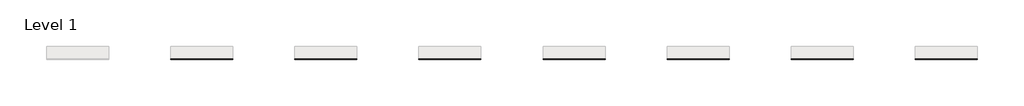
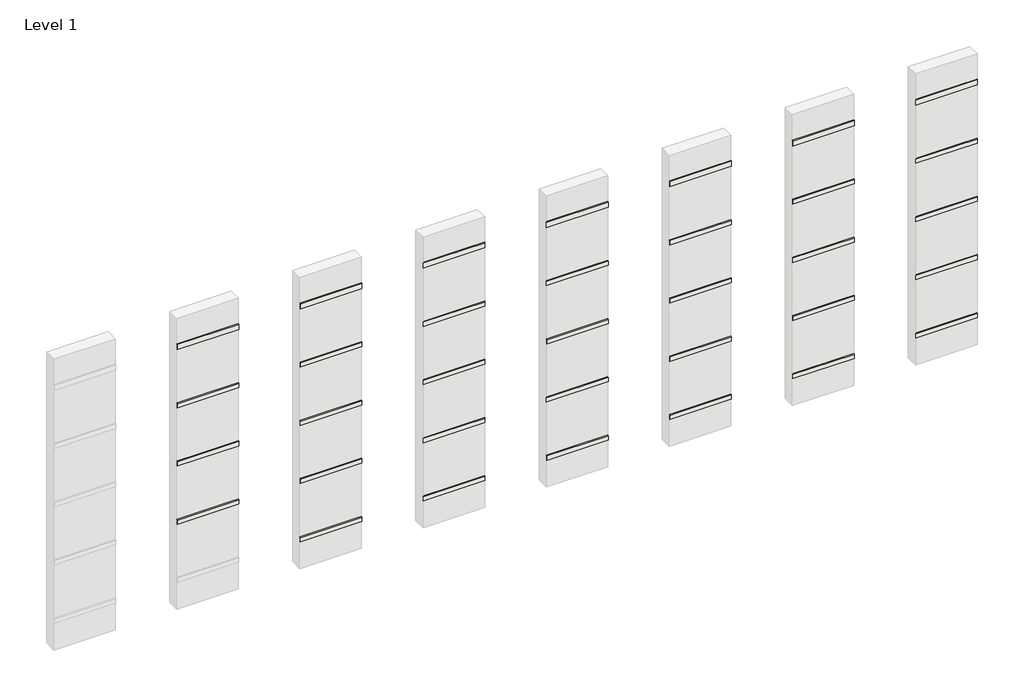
# One storey, part 2 of 2: 34 coverings.
"""IFC4 building model written with IfcOpenShell, lengths in millimetres."""

from ifc_helpers import new_model, si_unit, point, frame, frame_2d, origin, place, context, project, spatial, polyline, circle_curve, trimmed, segment, composite_curve, outline, extrude, element, save

model = new_model("IFC4")

# Units and contexts
model_context = context("Model", 3, world=origin())
ifc_project = project(units=[si_unit("LENGTHUNIT", "METRE", prefix="MILLI")], contexts=[model_context])

# Site, building, storey
site = spatial("IfcSite", under=ifc_project)
building = spatial("IfcBuilding", under=site)
storey = spatial("IfcBuildingStorey", under=building, Name="Level 1", Elevation=0.0)

# Coverings
placement = place(None, origin())
element("IfcCovering", 1, ObjectType="REVIGRÉS-OMNISTONE-RB-8X60-SOFT-IRON", at=placement, inside=storey, context=model_context, shape_type="SweptSolid", body=[
    extrude(outline(composite_curve([segment(polyline([(-6973.1153225, -16529.6057204), (-6982.9153225, -16529.6057204), (-6982.9153225, -16459.4057204)]), True, "CONTINUOUS"), segment(trimmed(circle_curve(frame_2d((-6973.1153225, -16459.4057204)), 9.8), [point((-6982.9153225, -16459.4057204))], [point((-6973.1153225, -16449.6057204))], False, "CARTESIAN"), True, "CONTINUOUS"), segment(polyline([(-6973.1153225, -16449.6057204), (-6973.1153225, -16529.6057204)]), True, "CONTINUOUS")], self_intersect=False)), frame((15592.0023157, 0.0, 0.0), z_axis=(1.0, 0.0, 0.0), x_axis=(0.0, 1.0, 0.0)), (0.0, 0.0, 1.0), 1000.0),
])
element("IfcCovering", 2, ObjectType="REVIGRÉS-OMNISTONE-RB-8X90-SOFT-IRON", at=placement, inside=storey, context=model_context, shape_type="SweptSolid", body=[
    extrude(outline(composite_curve([segment(polyline([(-6973.1153225, -15529.6057204), (-6983.6153225, -15529.6057204), (-6983.6153225, -15460.1057204)]), True, "CONTINUOUS"), segment(trimmed(circle_curve(frame_2d((-6973.1153225, -15460.1057204)), 10.5), [point((-6983.6153225, -15460.1057204))], [point((-6973.1153225, -15449.6057204))], False, "CARTESIAN"), True, "CONTINUOUS"), segment(polyline([(-6973.1153225, -15449.6057204), (-6973.1153225, -15529.6057204)]), True, "CONTINUOUS")], self_intersect=False)), frame((15592.0023157, 0.0, 0.0), z_axis=(1.0, 0.0, 0.0), x_axis=(0.0, 1.0, 0.0)), (0.0, 0.0, 1.0), 1000.0),
])
element("IfcCovering", 3, ObjectType="REVIGRÉS-OMNISTONE-RB-8X120-SOFT-IRON", at=placement, inside=storey, context=model_context, shape_type="SweptSolid", body=[
    extrude(outline(composite_curve([segment(polyline([(-6973.1153225, -14529.6057204), (-6982.9153225, -14529.6057204), (-6982.9153225, -14459.4057204)]), True, "CONTINUOUS"), segment(trimmed(circle_curve(frame_2d((-6973.1153225, -14459.4057204)), 9.8), [point((-6982.9153225, -14459.4057204))], [point((-6973.1153225, -14449.6057204))], False, "CARTESIAN"), True, "CONTINUOUS"), segment(polyline([(-6973.1153225, -14449.6057204), (-6973.1153225, -14529.6057204)]), True, "CONTINUOUS")], self_intersect=False)), frame((15592.0023157, 0.0, 0.0), z_axis=(1.0, 0.0, 0.0), x_axis=(0.0, 1.0, 0.0)), (0.0, 0.0, 1.0), 1000.0),
])
element("IfcCovering", 4, ObjectType="REVIGRÉS-OMNISTONE-RB-9.5X30-SOFT-IRON", at=placement, inside=storey, context=model_context, shape_type="SweptSolid", body=[
    extrude(outline(composite_curve([segment(polyline([(-6973.1153225, -13529.6057204), (-6982.9153225, -13529.6057204), (-6982.9153225, -13444.4057204)]), True, "CONTINUOUS"), segment(trimmed(circle_curve(frame_2d((-6973.1153225, -13444.4057204)), 9.8), [point((-6982.9153225, -13444.4057204))], [point((-6973.1153225, -13434.6057204))], False, "CARTESIAN"), True, "CONTINUOUS"), segment(polyline([(-6973.1153225, -13434.6057204), (-6973.1153225, -13529.6057204)]), True, "CONTINUOUS")], self_intersect=False)), frame((15592.0023157, 0.0, 0.0), z_axis=(1.0, 0.0, 0.0), x_axis=(0.0, 1.0, 0.0)), (0.0, 0.0, 1.0), 1000.0),
])
element("IfcCovering", 5, ObjectType="REVIGRÉS-OMNISTONE-RB-8X45-MATTRECT-JET", at=placement, inside=storey, context=model_context, shape_type="SweptSolid", body=[
    extrude(outline(composite_curve([segment(polyline([(-6973.1153225, -17529.6057204), (-6983.6153225, -17529.6057204), (-6983.6153225, -17460.1057204)]), True, "CONTINUOUS"), segment(trimmed(circle_curve(frame_2d((-6973.1153225, -17460.1057204)), 10.5), [point((-6983.6153225, -17460.1057204))], [point((-6973.1153225, -17449.6057204))], False, "CARTESIAN"), True, "CONTINUOUS"), segment(polyline([(-6973.1153225, -17449.6057204), (-6973.1153225, -17529.6057204)]), True, "CONTINUOUS")], self_intersect=False)), frame((17592.0023157, 0.0, 0.0), z_axis=(1.0, 0.0, 0.0), x_axis=(0.0, 1.0, 0.0)), (0.0, 0.0, 1.0), 1000.0),
])
element("IfcCovering", 6, ObjectType="REVIGRÉS-OMNISTONE-RB-8X60-MATTRECT-JET", at=placement, inside=storey, context=model_context, shape_type="SweptSolid", body=[
    extrude(outline(composite_curve([segment(polyline([(-6973.1153225, -16529.6057204), (-6982.9153225, -16529.6057204), (-6982.9153225, -16459.4057204)]), True, "CONTINUOUS"), segment(trimmed(circle_curve(frame_2d((-6973.1153225, -16459.4057204)), 9.8), [point((-6982.9153225, -16459.4057204))], [point((-6973.1153225, -16449.6057204))], False, "CARTESIAN"), True, "CONTINUOUS"), segment(polyline([(-6973.1153225, -16449.6057204), (-6973.1153225, -16529.6057204)]), True, "CONTINUOUS")], self_intersect=False)), frame((17592.0023157, 0.0, 0.0), z_axis=(1.0, 0.0, 0.0), x_axis=(0.0, 1.0, 0.0)), (0.0, 0.0, 1.0), 1000.0),
])
element("IfcCovering", 7, ObjectType="REVIGRÉS-OMNISTONE-RB-8X90-MATTRECT-JET", at=placement, inside=storey, context=model_context, shape_type="SweptSolid", body=[
    extrude(outline(composite_curve([segment(polyline([(-6973.1153225, -15529.6057204), (-6983.6153225, -15529.6057204), (-6983.6153225, -15460.1057204)]), True, "CONTINUOUS"), segment(trimmed(circle_curve(frame_2d((-6973.1153225, -15460.1057204)), 10.5), [point((-6983.6153225, -15460.1057204))], [point((-6973.1153225, -15449.6057204))], False, "CARTESIAN"), True, "CONTINUOUS"), segment(polyline([(-6973.1153225, -15449.6057204), (-6973.1153225, -15529.6057204)]), True, "CONTINUOUS")], self_intersect=False)), frame((17592.0023157, 0.0, 0.0), z_axis=(1.0, 0.0, 0.0), x_axis=(0.0, 1.0, 0.0)), (0.0, 0.0, 1.0), 1000.0),
])
element("IfcCovering", 8, ObjectType="REVIGRÉS-OMNISTONE-RB-8X120-MATTRECT-JET", at=placement, inside=storey, context=model_context, shape_type="SweptSolid", body=[
    extrude(outline(composite_curve([segment(polyline([(-6973.1153225, -14529.6057204), (-6982.9153225, -14529.6057204), (-6982.9153225, -14459.4057204)]), True, "CONTINUOUS"), segment(trimmed(circle_curve(frame_2d((-6973.1153225, -14459.4057204)), 9.8), [point((-6982.9153225, -14459.4057204))], [point((-6973.1153225, -14449.6057204))], False, "CARTESIAN"), True, "CONTINUOUS"), segment(polyline([(-6973.1153225, -14449.6057204), (-6973.1153225, -14529.6057204)]), True, "CONTINUOUS")], self_intersect=False)), frame((17592.0023157, 0.0, 0.0), z_axis=(1.0, 0.0, 0.0), x_axis=(0.0, 1.0, 0.0)), (0.0, 0.0, 1.0), 1000.0),
])
element("IfcCovering", 9, ObjectType="REVIGRÉS-OMNISTONE-RB-9.5X30-MATTRECT-JET", at=placement, inside=storey, context=model_context, shape_type="SweptSolid", body=[
    extrude(outline(composite_curve([segment(polyline([(-6973.1153225, -13529.6057204), (-6982.9153225, -13529.6057204), (-6982.9153225, -13444.4057204)]), True, "CONTINUOUS"), segment(trimmed(circle_curve(frame_2d((-6973.1153225, -13444.4057204)), 9.8), [point((-6982.9153225, -13444.4057204))], [point((-6973.1153225, -13434.6057204))], False, "CARTESIAN"), True, "CONTINUOUS"), segment(polyline([(-6973.1153225, -13434.6057204), (-6973.1153225, -13529.6057204)]), True, "CONTINUOUS")], self_intersect=False)), frame((17592.0023157, 0.0, 0.0), z_axis=(1.0, 0.0, 0.0), x_axis=(0.0, 1.0, 0.0)), (0.0, 0.0, 1.0), 1000.0),
])
element("IfcCovering", 10, ObjectType="REVIGRÉS-OMNISTONE-RB-8X45-SOFT-JET", at=placement, inside=storey, context=model_context, shape_type="SweptSolid", body=[
    extrude(outline(composite_curve([segment(polyline([(-6973.1153225, -17529.6057204), (-6983.6153225, -17529.6057204), (-6983.6153225, -17460.1057204)]), True, "CONTINUOUS"), segment(trimmed(circle_curve(frame_2d((-6973.1153225, -17460.1057204)), 10.5), [point((-6983.6153225, -17460.1057204))], [point((-6973.1153225, -17449.6057204))], False, "CARTESIAN"), True, "CONTINUOUS"), segment(polyline([(-6973.1153225, -17449.6057204), (-6973.1153225, -17529.6057204)]), True, "CONTINUOUS")], self_intersect=False)), frame((19592.0023157, 0.0, 0.0), z_axis=(1.0, 0.0, 0.0), x_axis=(0.0, 1.0, 0.0)), (0.0, 0.0, 1.0), 1000.0),
])
element("IfcCovering", 11, ObjectType="REVIGRÉS-OMNISTONE-RB-8X60-SOFT-JET", at=placement, inside=storey, context=model_context, shape_type="SweptSolid", body=[
    extrude(outline(composite_curve([segment(polyline([(-6973.1153225, -16529.6057204), (-6982.9153225, -16529.6057204), (-6982.9153225, -16459.4057204)]), True, "CONTINUOUS"), segment(trimmed(circle_curve(frame_2d((-6973.1153225, -16459.4057204)), 9.8), [point((-6982.9153225, -16459.4057204))], [point((-6973.1153225, -16449.6057204))], False, "CARTESIAN"), True, "CONTINUOUS"), segment(polyline([(-6973.1153225, -16449.6057204), (-6973.1153225, -16529.6057204)]), True, "CONTINUOUS")], self_intersect=False)), frame((19592.0023157, 0.0, 0.0), z_axis=(1.0, 0.0, 0.0), x_axis=(0.0, 1.0, 0.0)), (0.0, 0.0, 1.0), 1000.0),
])
element("IfcCovering", 12, ObjectType="REVIGRÉS-OMNISTONE-RB-8X90-SOFT-JET", at=placement, inside=storey, context=model_context, shape_type="SweptSolid", body=[
    extrude(outline(composite_curve([segment(polyline([(-6973.1153225, -15529.6057204), (-6983.6153225, -15529.6057204), (-6983.6153225, -15460.1057204)]), True, "CONTINUOUS"), segment(trimmed(circle_curve(frame_2d((-6973.1153225, -15460.1057204)), 10.5), [point((-6983.6153225, -15460.1057204))], [point((-6973.1153225, -15449.6057204))], False, "CARTESIAN"), True, "CONTINUOUS"), segment(polyline([(-6973.1153225, -15449.6057204), (-6973.1153225, -15529.6057204)]), True, "CONTINUOUS")], self_intersect=False)), frame((19592.0023157, 0.0, 0.0), z_axis=(1.0, 0.0, 0.0), x_axis=(0.0, 1.0, 0.0)), (0.0, 0.0, 1.0), 1000.0),
])
element("IfcCovering", 13, ObjectType="REVIGRÉS-OMNISTONE-RB-8X120-SOFT-JET", at=placement, inside=storey, context=model_context, shape_type="SweptSolid", body=[
    extrude(outline(composite_curve([segment(polyline([(-6973.1153225, -14529.6057204), (-6982.9153225, -14529.6057204), (-6982.9153225, -14459.4057204)]), True, "CONTINUOUS"), segment(trimmed(circle_curve(frame_2d((-6973.1153225, -14459.4057204)), 9.8), [point((-6982.9153225, -14459.4057204))], [point((-6973.1153225, -14449.6057204))], False, "CARTESIAN"), True, "CONTINUOUS"), segment(polyline([(-6973.1153225, -14449.6057204), (-6973.1153225, -14529.6057204)]), True, "CONTINUOUS")], self_intersect=False)), frame((19592.0023157, 0.0, 0.0), z_axis=(1.0, 0.0, 0.0), x_axis=(0.0, 1.0, 0.0)), (0.0, 0.0, 1.0), 1000.0),
])
element("IfcCovering", 14, ObjectType="REVIGRÉS-OMNISTONE-RB-9.5X30-SOFT-JET", at=placement, inside=storey, context=model_context, shape_type="SweptSolid", body=[
    extrude(outline(composite_curve([segment(polyline([(-6973.1153225, -13529.6057204), (-6982.9153225, -13529.6057204), (-6982.9153225, -13444.4057204)]), True, "CONTINUOUS"), segment(trimmed(circle_curve(frame_2d((-6973.1153225, -13444.4057204)), 9.8), [point((-6982.9153225, -13444.4057204))], [point((-6973.1153225, -13434.6057204))], False, "CARTESIAN"), True, "CONTINUOUS"), segment(polyline([(-6973.1153225, -13434.6057204), (-6973.1153225, -13529.6057204)]), True, "CONTINUOUS")], self_intersect=False)), frame((19592.0023157, 0.0, 0.0), z_axis=(1.0, 0.0, 0.0), x_axis=(0.0, 1.0, 0.0)), (0.0, 0.0, 1.0), 1000.0),
])
element("IfcCovering", 15, ObjectType="REVIGRÉS-OMNISTONE-RB-8X45-MATTRECT-PLATINA", at=placement, inside=storey, context=model_context, shape_type="SweptSolid", body=[
    extrude(outline(composite_curve([segment(polyline([(-6973.1153225, -17529.6057204), (-6983.6153225, -17529.6057204), (-6983.6153225, -17460.1057204)]), True, "CONTINUOUS"), segment(trimmed(circle_curve(frame_2d((-6973.1153225, -17460.1057204)), 10.5), [point((-6983.6153225, -17460.1057204))], [point((-6973.1153225, -17449.6057204))], False, "CARTESIAN"), True, "CONTINUOUS"), segment(polyline([(-6973.1153225, -17449.6057204), (-6973.1153225, -17529.6057204)]), True, "CONTINUOUS")], self_intersect=False)), frame((21592.0023157, 0.0, 0.0), z_axis=(1.0, 0.0, 0.0), x_axis=(0.0, 1.0, 0.0)), (0.0, 0.0, 1.0), 1000.0),
])
element("IfcCovering", 16, ObjectType="REVIGRÉS-OMNISTONE-RB-8X60-MATTRECT-PLATINA", at=placement, inside=storey, context=model_context, shape_type="SweptSolid", body=[
    extrude(outline(composite_curve([segment(polyline([(-6973.1153225, -16529.6057204), (-6982.9153225, -16529.6057204), (-6982.9153225, -16459.4057204)]), True, "CONTINUOUS"), segment(trimmed(circle_curve(frame_2d((-6973.1153225, -16459.4057204)), 9.8), [point((-6982.9153225, -16459.4057204))], [point((-6973.1153225, -16449.6057204))], False, "CARTESIAN"), True, "CONTINUOUS"), segment(polyline([(-6973.1153225, -16449.6057204), (-6973.1153225, -16529.6057204)]), True, "CONTINUOUS")], self_intersect=False)), frame((21592.0023157, 0.0, 0.0), z_axis=(1.0, 0.0, 0.0), x_axis=(0.0, 1.0, 0.0)), (0.0, 0.0, 1.0), 1000.0),
])
element("IfcCovering", 17, ObjectType="REVIGRÉS-OMNISTONE-RB-8X90-MATTRECT-PLATINA", at=placement, inside=storey, context=model_context, shape_type="SweptSolid", body=[
    extrude(outline(composite_curve([segment(polyline([(-6973.1153225, -15529.6057204), (-6983.6153225, -15529.6057204), (-6983.6153225, -15460.1057204)]), True, "CONTINUOUS"), segment(trimmed(circle_curve(frame_2d((-6973.1153225, -15460.1057204)), 10.5), [point((-6983.6153225, -15460.1057204))], [point((-6973.1153225, -15449.6057204))], False, "CARTESIAN"), True, "CONTINUOUS"), segment(polyline([(-6973.1153225, -15449.6057204), (-6973.1153225, -15529.6057204)]), True, "CONTINUOUS")], self_intersect=False)), frame((21592.0023157, 0.0, 0.0), z_axis=(1.0, 0.0, 0.0), x_axis=(0.0, 1.0, 0.0)), (0.0, 0.0, 1.0), 1000.0),
])
element("IfcCovering", 18, ObjectType="REVIGRÉS-OMNISTONE-RB-8X120-MATTRECT-PLATINA", at=placement, inside=storey, context=model_context, shape_type="SweptSolid", body=[
    extrude(outline(composite_curve([segment(polyline([(-6973.1153225, -14529.6057204), (-6982.9153225, -14529.6057204), (-6982.9153225, -14459.4057204)]), True, "CONTINUOUS"), segment(trimmed(circle_curve(frame_2d((-6973.1153225, -14459.4057204)), 9.8), [point((-6982.9153225, -14459.4057204))], [point((-6973.1153225, -14449.6057204))], False, "CARTESIAN"), True, "CONTINUOUS"), segment(polyline([(-6973.1153225, -14449.6057204), (-6973.1153225, -14529.6057204)]), True, "CONTINUOUS")], self_intersect=False)), frame((21592.0023157, 0.0, 0.0), z_axis=(1.0, 0.0, 0.0), x_axis=(0.0, 1.0, 0.0)), (0.0, 0.0, 1.0), 1000.0),
])
element("IfcCovering", 19, ObjectType="REVIGRÉS-OMNISTONE-RB-9.5X30-MATTRECT-PLATINA", at=placement, inside=storey, context=model_context, shape_type="SweptSolid", body=[
    extrude(outline(composite_curve([segment(polyline([(-6973.1153225, -13529.6057204), (-6982.9153225, -13529.6057204), (-6982.9153225, -13444.4057204)]), True, "CONTINUOUS"), segment(trimmed(circle_curve(frame_2d((-6973.1153225, -13444.4057204)), 9.8), [point((-6982.9153225, -13444.4057204))], [point((-6973.1153225, -13434.6057204))], False, "CARTESIAN"), True, "CONTINUOUS"), segment(polyline([(-6973.1153225, -13434.6057204), (-6973.1153225, -13529.6057204)]), True, "CONTINUOUS")], self_intersect=False)), frame((21592.0023157, 0.0, 0.0), z_axis=(1.0, 0.0, 0.0), x_axis=(0.0, 1.0, 0.0)), (0.0, 0.0, 1.0), 1000.0),
])
element("IfcCovering", 20, ObjectType="REVIGRÉS-OMNISTONE-RB-8X45-SOFT-PLATINA", at=placement, inside=storey, context=model_context, shape_type="SweptSolid", body=[
    extrude(outline(composite_curve([segment(polyline([(-6973.1153225, -17529.6057204), (-6983.6153225, -17529.6057204), (-6983.6153225, -17460.1057204)]), True, "CONTINUOUS"), segment(trimmed(circle_curve(frame_2d((-6973.1153225, -17460.1057204)), 10.5), [point((-6983.6153225, -17460.1057204))], [point((-6973.1153225, -17449.6057204))], False, "CARTESIAN"), True, "CONTINUOUS"), segment(polyline([(-6973.1153225, -17449.6057204), (-6973.1153225, -17529.6057204)]), True, "CONTINUOUS")], self_intersect=False)), frame((23592.0023157, 0.0, 0.0), z_axis=(1.0, 0.0, 0.0), x_axis=(0.0, 1.0, 0.0)), (0.0, 0.0, 1.0), 1000.0),
])
element("IfcCovering", 21, ObjectType="REVIGRÉS-OMNISTONE-RB-8X60-SOFT-PLATINA", at=placement, inside=storey, context=model_context, shape_type="SweptSolid", body=[
    extrude(outline(composite_curve([segment(polyline([(-6973.1153225, -16529.6057204), (-6982.9153225, -16529.6057204), (-6982.9153225, -16459.4057204)]), True, "CONTINUOUS"), segment(trimmed(circle_curve(frame_2d((-6973.1153225, -16459.4057204)), 9.8), [point((-6982.9153225, -16459.4057204))], [point((-6973.1153225, -16449.6057204))], False, "CARTESIAN"), True, "CONTINUOUS"), segment(polyline([(-6973.1153225, -16449.6057204), (-6973.1153225, -16529.6057204)]), True, "CONTINUOUS")], self_intersect=False)), frame((23592.0023157, 0.0, 0.0), z_axis=(1.0, 0.0, 0.0), x_axis=(0.0, 1.0, 0.0)), (0.0, 0.0, 1.0), 1000.0),
])
element("IfcCovering", 22, ObjectType="REVIGRÉS-OMNISTONE-RB-8X90-SOFT-PLATINA", at=placement, inside=storey, context=model_context, shape_type="SweptSolid", body=[
    extrude(outline(composite_curve([segment(polyline([(-6973.1153225, -15529.6057204), (-6983.6153225, -15529.6057204), (-6983.6153225, -15460.1057204)]), True, "CONTINUOUS"), segment(trimmed(circle_curve(frame_2d((-6973.1153225, -15460.1057204)), 10.5), [point((-6983.6153225, -15460.1057204))], [point((-6973.1153225, -15449.6057204))], False, "CARTESIAN"), True, "CONTINUOUS"), segment(polyline([(-6973.1153225, -15449.6057204), (-6973.1153225, -15529.6057204)]), True, "CONTINUOUS")], self_intersect=False)), frame((23592.0023157, 0.0, 0.0), z_axis=(1.0, 0.0, 0.0), x_axis=(0.0, 1.0, 0.0)), (0.0, 0.0, 1.0), 1000.0),
])
element("IfcCovering", 23, ObjectType="REVIGRÉS-OMNISTONE-RB-8X120-SOFT-PLATINA", at=placement, inside=storey, context=model_context, shape_type="SweptSolid", body=[
    extrude(outline(composite_curve([segment(polyline([(-6973.1153225, -14529.6057204), (-6982.9153225, -14529.6057204), (-6982.9153225, -14459.4057204)]), True, "CONTINUOUS"), segment(trimmed(circle_curve(frame_2d((-6973.1153225, -14459.4057204)), 9.8), [point((-6982.9153225, -14459.4057204))], [point((-6973.1153225, -14449.6057204))], False, "CARTESIAN"), True, "CONTINUOUS"), segment(polyline([(-6973.1153225, -14449.6057204), (-6973.1153225, -14529.6057204)]), True, "CONTINUOUS")], self_intersect=False)), frame((23592.0023157, 0.0, 0.0), z_axis=(1.0, 0.0, 0.0), x_axis=(0.0, 1.0, 0.0)), (0.0, 0.0, 1.0), 1000.0),
])
element("IfcCovering", 24, ObjectType="REVIGRÉS-OMNISTONE-RB-9.5X30-SOFT-PLATINA", at=placement, inside=storey, context=model_context, shape_type="SweptSolid", body=[
    extrude(outline(composite_curve([segment(polyline([(-6973.1153225, -13529.6057204), (-6982.9153225, -13529.6057204), (-6982.9153225, -13444.4057204)]), True, "CONTINUOUS"), segment(trimmed(circle_curve(frame_2d((-6973.1153225, -13444.4057204)), 9.8), [point((-6982.9153225, -13444.4057204))], [point((-6973.1153225, -13434.6057204))], False, "CARTESIAN"), True, "CONTINUOUS"), segment(polyline([(-6973.1153225, -13434.6057204), (-6973.1153225, -13529.6057204)]), True, "CONTINUOUS")], self_intersect=False)), frame((23592.0023157, 0.0, 0.0), z_axis=(1.0, 0.0, 0.0), x_axis=(0.0, 1.0, 0.0)), (0.0, 0.0, 1.0), 1000.0),
])
element("IfcCovering", 25, ObjectType="REVIGRÉS-OMNISTONE-RB-8X45-MATTRECT-ROPE", at=placement, inside=storey, context=model_context, shape_type="SweptSolid", body=[
    extrude(outline(composite_curve([segment(polyline([(-6973.1153225, -17529.6057204), (-6983.6153225, -17529.6057204), (-6983.6153225, -17460.1057204)]), True, "CONTINUOUS"), segment(trimmed(circle_curve(frame_2d((-6973.1153225, -17460.1057204)), 10.5), [point((-6983.6153225, -17460.1057204))], [point((-6973.1153225, -17449.6057204))], False, "CARTESIAN"), True, "CONTINUOUS"), segment(polyline([(-6973.1153225, -17449.6057204), (-6973.1153225, -17529.6057204)]), True, "CONTINUOUS")], self_intersect=False)), frame((25592.0023157, 0.0, 0.0), z_axis=(1.0, 0.0, 0.0), x_axis=(0.0, 1.0, 0.0)), (0.0, 0.0, 1.0), 1000.0),
])
element("IfcCovering", 26, ObjectType="REVIGRÉS-OMNISTONE-RB-8X60-MATTRECT-ROPE", at=placement, inside=storey, context=model_context, shape_type="SweptSolid", body=[
    extrude(outline(composite_curve([segment(polyline([(-6973.1153225, -16529.6057204), (-6982.9153225, -16529.6057204), (-6982.9153225, -16459.4057204)]), True, "CONTINUOUS"), segment(trimmed(circle_curve(frame_2d((-6973.1153225, -16459.4057204)), 9.8), [point((-6982.9153225, -16459.4057204))], [point((-6973.1153225, -16449.6057204))], False, "CARTESIAN"), True, "CONTINUOUS"), segment(polyline([(-6973.1153225, -16449.6057204), (-6973.1153225, -16529.6057204)]), True, "CONTINUOUS")], self_intersect=False)), frame((25592.0023157, 0.0, 0.0), z_axis=(1.0, 0.0, 0.0), x_axis=(0.0, 1.0, 0.0)), (0.0, 0.0, 1.0), 1000.0),
])
element("IfcCovering", 27, ObjectType="REVIGRÉS-OMNISTONE-RB-8X90-MATTRECT-ROPE", at=placement, inside=storey, context=model_context, shape_type="SweptSolid", body=[
    extrude(outline(composite_curve([segment(polyline([(-6973.1153225, -15529.6057204), (-6983.6153225, -15529.6057204), (-6983.6153225, -15460.1057204)]), True, "CONTINUOUS"), segment(trimmed(circle_curve(frame_2d((-6973.1153225, -15460.1057204)), 10.5), [point((-6983.6153225, -15460.1057204))], [point((-6973.1153225, -15449.6057204))], False, "CARTESIAN"), True, "CONTINUOUS"), segment(polyline([(-6973.1153225, -15449.6057204), (-6973.1153225, -15529.6057204)]), True, "CONTINUOUS")], self_intersect=False)), frame((25592.0023157, 0.0, 0.0), z_axis=(1.0, 0.0, 0.0), x_axis=(0.0, 1.0, 0.0)), (0.0, 0.0, 1.0), 1000.0),
])
element("IfcCovering", 28, ObjectType="REVIGRÉS-OMNISTONE-RB-8X120-MATTRECT-ROPE", at=placement, inside=storey, context=model_context, shape_type="SweptSolid", body=[
    extrude(outline(composite_curve([segment(polyline([(-6973.1153225, -14529.6057204), (-6982.9153225, -14529.6057204), (-6982.9153225, -14459.4057204)]), True, "CONTINUOUS"), segment(trimmed(circle_curve(frame_2d((-6973.1153225, -14459.4057204)), 9.8), [point((-6982.9153225, -14459.4057204))], [point((-6973.1153225, -14449.6057204))], False, "CARTESIAN"), True, "CONTINUOUS"), segment(polyline([(-6973.1153225, -14449.6057204), (-6973.1153225, -14529.6057204)]), True, "CONTINUOUS")], self_intersect=False)), frame((25592.0023157, 0.0, 0.0), z_axis=(1.0, 0.0, 0.0), x_axis=(0.0, 1.0, 0.0)), (0.0, 0.0, 1.0), 1000.0),
])
element("IfcCovering", 29, ObjectType="REVIGRÉS-OMNISTONE-RB-9.5X30-MATTRECT-ROPE", at=placement, inside=storey, context=model_context, shape_type="SweptSolid", body=[
    extrude(outline(composite_curve([segment(polyline([(-6973.1153225, -13529.6057204), (-6982.9153225, -13529.6057204), (-6982.9153225, -13444.4057204)]), True, "CONTINUOUS"), segment(trimmed(circle_curve(frame_2d((-6973.1153225, -13444.4057204)), 9.8), [point((-6982.9153225, -13444.4057204))], [point((-6973.1153225, -13434.6057204))], False, "CARTESIAN"), True, "CONTINUOUS"), segment(polyline([(-6973.1153225, -13434.6057204), (-6973.1153225, -13529.6057204)]), True, "CONTINUOUS")], self_intersect=False)), frame((25592.0023157, 0.0, 0.0), z_axis=(1.0, 0.0, 0.0), x_axis=(0.0, 1.0, 0.0)), (0.0, 0.0, 1.0), 1000.0),
])
element("IfcCovering", 30, ObjectType="REVIGRÉS-OMNISTONE-RB-8X45-SOFT-ROPE", at=placement, inside=storey, context=model_context, shape_type="SweptSolid", body=[
    extrude(outline(composite_curve([segment(polyline([(-6973.1153225, -17529.6057204), (-6983.6153225, -17529.6057204), (-6983.6153225, -17460.1057204)]), True, "CONTINUOUS"), segment(trimmed(circle_curve(frame_2d((-6973.1153225, -17460.1057204)), 10.5), [point((-6983.6153225, -17460.1057204))], [point((-6973.1153225, -17449.6057204))], False, "CARTESIAN"), True, "CONTINUOUS"), segment(polyline([(-6973.1153225, -17449.6057204), (-6973.1153225, -17529.6057204)]), True, "CONTINUOUS")], self_intersect=False)), frame((27592.0023157, 0.0, 0.0), z_axis=(1.0, 0.0, 0.0), x_axis=(0.0, 1.0, 0.0)), (0.0, 0.0, 1.0), 1000.0),
])
element("IfcCovering", 31, ObjectType="REVIGRÉS-OMNISTONE-RB-8X60-SOFT-ROPE", at=placement, inside=storey, context=model_context, shape_type="SweptSolid", body=[
    extrude(outline(composite_curve([segment(polyline([(-6973.1153225, -16529.6057204), (-6982.9153225, -16529.6057204), (-6982.9153225, -16459.4057204)]), True, "CONTINUOUS"), segment(trimmed(circle_curve(frame_2d((-6973.1153225, -16459.4057204)), 9.8), [point((-6982.9153225, -16459.4057204))], [point((-6973.1153225, -16449.6057204))], False, "CARTESIAN"), True, "CONTINUOUS"), segment(polyline([(-6973.1153225, -16449.6057204), (-6973.1153225, -16529.6057204)]), True, "CONTINUOUS")], self_intersect=False)), frame((27592.0023157, 0.0, 0.0), z_axis=(1.0, 0.0, 0.0), x_axis=(0.0, 1.0, 0.0)), (0.0, 0.0, 1.0), 1000.0),
])
element("IfcCovering", 32, ObjectType="REVIGRÉS-OMNISTONE-RB-8X90-SOFT-ROPE", at=placement, inside=storey, context=model_context, shape_type="SweptSolid", body=[
    extrude(outline(composite_curve([segment(polyline([(-6973.1153225, -15529.6057204), (-6983.6153225, -15529.6057204), (-6983.6153225, -15460.1057204)]), True, "CONTINUOUS"), segment(trimmed(circle_curve(frame_2d((-6973.1153225, -15460.1057204)), 10.5), [point((-6983.6153225, -15460.1057204))], [point((-6973.1153225, -15449.6057204))], False, "CARTESIAN"), True, "CONTINUOUS"), segment(polyline([(-6973.1153225, -15449.6057204), (-6973.1153225, -15529.6057204)]), True, "CONTINUOUS")], self_intersect=False)), frame((27592.0023157, 0.0, 0.0), z_axis=(1.0, 0.0, 0.0), x_axis=(0.0, 1.0, 0.0)), (0.0, 0.0, 1.0), 1000.0),
])
element("IfcCovering", 33, ObjectType="REVIGRÉS-OMNISTONE-RB-8X120-SOFT-ROPE", at=placement, inside=storey, context=model_context, shape_type="SweptSolid", body=[
    extrude(outline(composite_curve([segment(polyline([(-6973.1153225, -14529.6057204), (-6982.9153225, -14529.6057204), (-6982.9153225, -14459.4057204)]), True, "CONTINUOUS"), segment(trimmed(circle_curve(frame_2d((-6973.1153225, -14459.4057204)), 9.8), [point((-6982.9153225, -14459.4057204))], [point((-6973.1153225, -14449.6057204))], False, "CARTESIAN"), True, "CONTINUOUS"), segment(polyline([(-6973.1153225, -14449.6057204), (-6973.1153225, -14529.6057204)]), True, "CONTINUOUS")], self_intersect=False)), frame((27592.0023157, 0.0, 0.0), z_axis=(1.0, 0.0, 0.0), x_axis=(0.0, 1.0, 0.0)), (0.0, 0.0, 1.0), 1000.0),
])
element("IfcCovering", 34, ObjectType="REVIGRÉS-OMNISTONE-RB-9.5X30-SOFT-ROPE", at=placement, inside=storey, context=model_context, shape_type="SweptSolid", body=[
    extrude(outline(composite_curve([segment(polyline([(-6973.1153225, -13529.6057204), (-6982.9153225, -13529.6057204), (-6982.9153225, -13444.4057204)]), True, "CONTINUOUS"), segment(trimmed(circle_curve(frame_2d((-6973.1153225, -13444.4057204)), 9.8), [point((-6982.9153225, -13444.4057204))], [point((-6973.1153225, -13434.6057204))], False, "CARTESIAN"), True, "CONTINUOUS"), segment(polyline([(-6973.1153225, -13434.6057204), (-6973.1153225, -13529.6057204)]), True, "CONTINUOUS")], self_intersect=False)), frame((27592.0023157, 0.0, 0.0), z_axis=(1.0, 0.0, 0.0), x_axis=(0.0, 1.0, 0.0)), (0.0, 0.0, 1.0), 1000.0),
])

save(model, "model.ifc")
